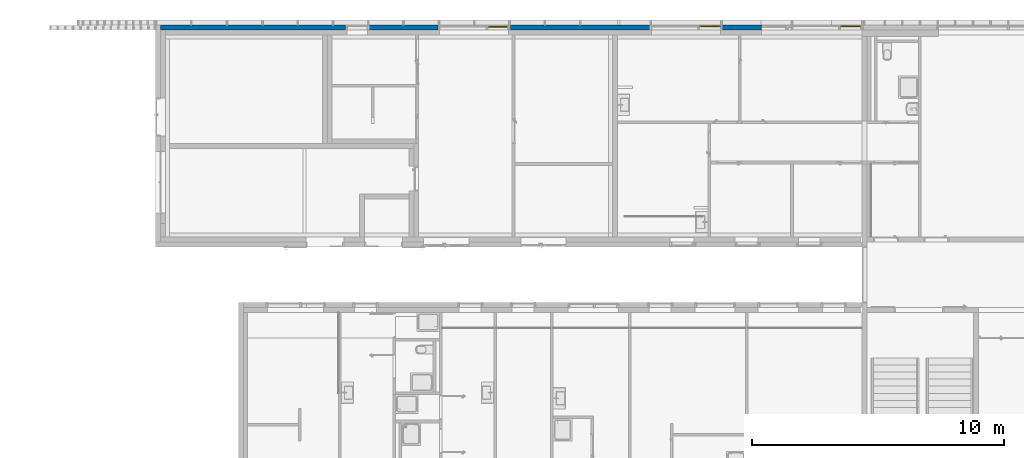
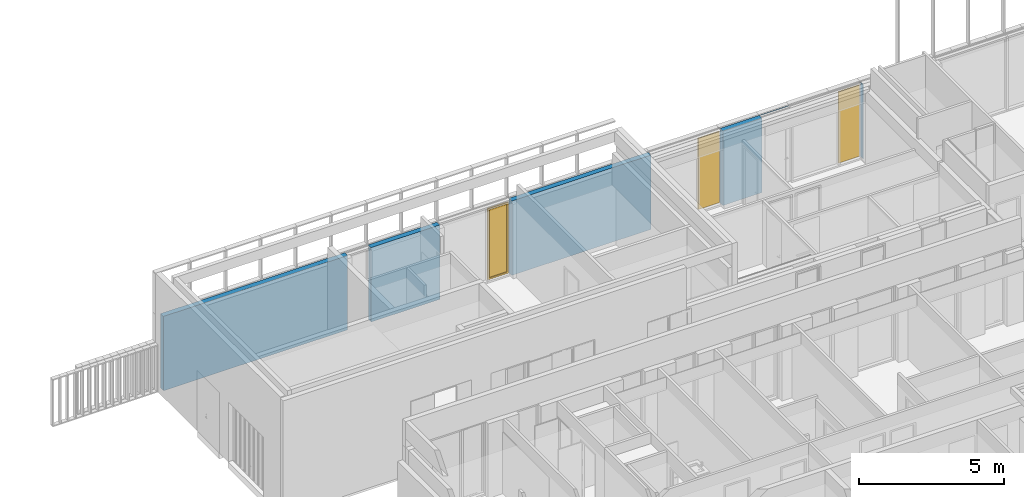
# One storey, part 116 of 240: 3 windows, 1 wall, 8 openings.
"""IFC2X3 building model written with IfcOpenShell, lengths in centimetres."""

from ifc_helpers import new_model, entity, si_unit, converted_unit, derived_unit, direction, frame, frame_2d, origin, place, context, subcontext, project, spatial, rectangle, extrude, faceted_brep, source, transform, mapped, material, material_list, layer, layer_set, layer_usage, type_object, type_shapes, element, fill, save


model = new_model("IFC2X3")

# Units and contexts
model_context = context("Model", 3, precision=0.001, world=origin(), true_north=direction((6.12303176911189e-17, 1.0)))
body_context = subcontext(model_context, "Body", "Model", "MODEL_VIEW")
ifc_project = project(units=[si_unit("LENGTHUNIT", "METRE", prefix="CENTI"), si_unit("AREAUNIT", "SQUARE_METRE"), si_unit("VOLUMEUNIT", "CUBIC_METRE"), converted_unit("PLANEANGLEUNIT", "DEGREE", entity("IfcRatioMeasure", 0.0174532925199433), si_unit("PLANEANGLEUNIT", "RADIAN"), dimensions=[0, 0, 0, 0, 0, 0, 0]), si_unit("MASSUNIT", "GRAM", prefix="KILO"), derived_unit("MASSDENSITYUNIT", [(si_unit("MASSUNIT", "GRAM", prefix="KILO"), 1), (si_unit("LENGTHUNIT", "METRE"), -3)]), si_unit("TIMEUNIT", "SECOND"), si_unit("FREQUENCYUNIT", "HERTZ"), si_unit("THERMODYNAMICTEMPERATUREUNIT", "DEGREE_CELSIUS"), derived_unit("THERMALTRANSMITTANCEUNIT", [(si_unit("MASSUNIT", "GRAM", prefix="KILO"), 1), (si_unit("THERMODYNAMICTEMPERATUREUNIT", "KELVIN"), -1), (si_unit("TIMEUNIT", "SECOND"), -3)]), derived_unit("VOLUMETRICFLOWRATEUNIT", [(si_unit("LENGTHUNIT", "METRE"), 3), (si_unit("TIMEUNIT", "SECOND"), -1)]), si_unit("ELECTRICCURRENTUNIT", "AMPERE"), si_unit("ELECTRICVOLTAGEUNIT", "VOLT"), si_unit("POWERUNIT", "WATT"), si_unit("FORCEUNIT", "NEWTON", prefix="KILO"), si_unit("ILLUMINANCEUNIT", "LUX"), si_unit("LUMINOUSFLUXUNIT", "LUMEN"), si_unit("LUMINOUSINTENSITYUNIT", "CANDELA"), derived_unit("USERDEFINED", [(si_unit("MASSUNIT", "GRAM", prefix="KILO"), -1), (si_unit("LENGTHUNIT", "METRE"), -2), (si_unit("TIMEUNIT", "SECOND"), 3), (si_unit("LUMINOUSFLUXUNIT", "LUMEN"), 1)]), derived_unit("LINEARVELOCITYUNIT", [(si_unit("LENGTHUNIT", "METRE"), 1), (si_unit("TIMEUNIT", "SECOND"), -1)]), si_unit("PRESSUREUNIT", "PASCAL"), derived_unit("USERDEFINED", [(si_unit("LENGTHUNIT", "METRE"), -2), (si_unit("MASSUNIT", "GRAM", prefix="KILO"), 1), (si_unit("TIMEUNIT", "SECOND"), -2)])], contexts=[model_context])

# Site, building, storey
site_placement = place(None, frame((-2781.94577612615, 7442.24238424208, 0.0)))
site = spatial("IfcSite", under=ifc_project, at=site_placement, Name="Default", CompositionType="ELEMENT")
building_placement = place(site_placement, origin())
building = spatial("IfcBuilding", under=site, at=building_placement, CompositionType="ELEMENT")
storey_placement = place(building_placement, origin())
storey = spatial("IfcBuildingStorey", under=building, at=storey_placement, Name="N00 - COO", CompositionType="ELEMENT", Elevation=0.0)

# Wall, openings, windows
ifc_material_1 = material(Name="Aluminium bardage")
ifc_layer_1 = layer(ifc_material_1, 0.5)
ifc_material_2 = material(Name="01 - Lame d'air")
ifc_layer_2 = layer(ifc_material_2, 1.5)
ifc_material_3 = material(Name="00 - Isolant")
ifc_layer_3 = layer(ifc_material_3, 18.0)
ifc_layer_set = layer_set([ifc_layer_1, ifc_layer_2, ifc_layer_3], Name="Mur de base:04 - Parement - ITE 18cm + vide 2cm")
ifc_layer_usage = layer_usage(ifc_layer_set, "AXIS2", "POSITIVE", -10.0)
wall_type = type_object("IfcWallType", Name="Mur de base:04 - Parement - ITE 18cm + vide 2cm", PredefinedType="STANDARD", material=ifc_layer_set)
wall_placement = place(building_placement, frame((-8423.74987766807, 20.0, 0.0), z_axis=(0.0, 0.0, 1.0), x_axis=(-1.0, 0.0, 0.0)))
wall = element("IfcWallStandardCase", 1, at=wall_placement, inside=storey, type_object=wall_type, material=ifc_layer_usage, Name="Mur de base:04 - Parement - ITE 18cm + vide 2cm", ObjectType="Mur de base:04 - Parement - ITE 18cm + vide 2cm", context=body_context, shape_type="SweptSolid", body=[
    extrude(rectangle(XDim=2786.91181917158, YDim=20.0, at=frame_2d((1393.45590958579, 2.66453525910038e-15), x_axis=(-1.0, 0.0))), origin(), (0.0, 0.0, 1.0), 313.000000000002),
])
opening_1_placement = place(wall_placement, origin())
element("IfcOpeningElement", 2, at=opening_1_placement, cuts=wall, Name="Mur de base:04 - Parement - ITE 18cm + vide 2cm", ObjectType="Opening", context=body_context, shape_type="SweptSolid", body=[
    extrude(rectangle(XDim=316.500000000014, YDim=286.500000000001, at=frame_2d((0.0, -8.66862137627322e-13), x_axis=(1.0, 0.0))), frame((703.250000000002, -25.24, 158.250000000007), z_axis=(0.0, 1.0, 0.0), x_axis=(0.0, 0.0, 1.0)), (0.0, 0.0, 1.0), 50.48),
])
opening_2_placement = place(wall_placement, origin())
element("IfcOpeningElement", 3, at=opening_2_placement, cuts=wall, Name="Mur de base:04 - Parement - ITE 18cm + vide 2cm", ObjectType="Opening", context=body_context, shape_type="SweptSolid", body=[
    extrude(rectangle(XDim=319.61455664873, YDim=286.500000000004, at=frame_2d((0.0, 8.66862137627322e-13), x_axis=(1.0, 0.0))), frame((1543.25, -25.24, 159.807278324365), z_axis=(0.0, 1.0, 0.0), x_axis=(0.0, 0.0, 1.0)), (0.0, 0.0, 1.0), 50.48),
])
opening_3_placement = place(wall_placement, origin())
element("IfcOpeningElement", 4, at=opening_3_placement, cuts=wall, Name="Mur de base:04 - Parement - ITE 18cm + vide 2cm", ObjectType="Opening", context=body_context, shape_type="SweptSolid", body=[
    extrude(rectangle(XDim=313.0, YDim=285.749999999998, at=frame_2d((0.0, 8.66862137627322e-13), x_axis=(1.0, 0.0))), frame((143.624999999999, -25.24, 156.5), z_axis=(0.0, 1.0, 0.0), x_axis=(0.0, 0.0, 1.0)), (0.0, 0.0, 1.0), 50.48),
])
opening_4_placement = place(wall_placement, origin())
element("IfcOpeningElement", 5, at=opening_4_placement, cuts=wall, Name="Mur de base:04 - Parement - ITE 18cm + vide 2cm", ObjectType="Opening", context=body_context, shape_type="SweptSolid", body=[
    extrude(rectangle(XDim=313.0, YDim=93.2500000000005, at=frame_2d((0.0, 0.0), x_axis=(0.0, 1.0))), frame((2006.62500003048, -25.24, 156.5), z_axis=(0.0, 1.0, 0.0), x_axis=(-1.0, 0.0, 0.0)), (0.0, 0.0, 1.0), 50.48),
])
opening_5_placement = place(wall_placement, frame((404.267833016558, 51.1999999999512, -15.0), z_axis=(0.0, 0.0, 1.0), x_axis=(-1.0, 0.0, 0.0)))
element("IfcOpeningElement", 6, at=opening_5_placement, cuts=wall, Name="Mur de base:04 - Parement - ITE 18cm + vide 2cm", ObjectType="Opening", context=body_context, shape_type="Brep", body=[
    faceted_brep([(116.698832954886, 61.2999999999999, 326.0), (116.698832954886, 61.2999999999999, 0.0), (2.0, 61.3000000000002, 0.0), (2.0, 61.3000000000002, 326.0), (116.698832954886, 60.0, 326.0), (116.698832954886, 60.0, 0.0), (118.698832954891, 60.0, 0.0), (118.698832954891, 0.0, 0.0), (0.0, 0.0, 0.0), (0.0, 60.0, 0.0), (2.0, 60.0, 0.0), (2.0, 60.0, 326.0), (0.0, 0.0, 328.0), (118.698832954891, 0.0, 328.0), (0.0, 60.0, 328.0), (118.698832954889, 60.0, 328.0)], [[[0, 1, 2, 3]], [[1, 0, 4, 5]], [[2, 1, 5, 6, 7, 8, 9, 10]], [[3, 2, 10, 11]], [[0, 3, 11, 4]], [[12, 8, 7, 13]], [[14, 15, 6, 5, 4, 11, 10, 9]], [[8, 12, 14, 9]], [[13, 7, 6, 15]], [[12, 13, 15, 14]]]),
])
opening_6_placement = place(wall_placement, frame((1490.0, 10.0, 6.5)))
opening_6 = element("IfcOpeningElement", 7, at=opening_6_placement, cuts=wall, Name="Ouvrant vitré:Ouvrant vitré (90cm) RDC:1", ObjectType="Opening", context=body_context, shape_type="SweptSolid", body=[
    extrude(rectangle(XDim=299.5, YDim=83.5000000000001, at=frame_2d((149.75, 41.75), x_axis=(1.0, 0.0))), frame((0.0, 0.0, 0.0), z_axis=(0.0, -1.0, 0.0), x_axis=(0.0, 0.0, 1.0)), (0.0, 0.0, 1.0), 20.0),
])
opening_7_placement = place(wall_placement, frame((650.0, 10.0, 6.5)))
opening_7 = element("IfcOpeningElement", 8, at=opening_7_placement, cuts=wall, Name="Ouvrant vitré:Ouvrant vitré (90cm) RDC:1", ObjectType="Opening", context=body_context, shape_type="SweptSolid", body=[
    extrude(rectangle(XDim=299.5, YDim=83.5000000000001, at=frame_2d((149.75, 41.75), x_axis=(1.0, 0.0))), frame((0.0, 0.0, 0.0), z_axis=(0.0, -1.0, 0.0), x_axis=(0.0, 0.0, 1.0)), (0.0, 0.0, 1.0), 20.0),
])
opening_8_placement = place(wall_placement, frame((91.0, 10.0, 6.5)))
opening_8 = element("IfcOpeningElement", 9, at=opening_8_placement, cuts=wall, Name="Ouvrant vitré:Ouvrant vitré (90cm) RDC:1", ObjectType="Opening", context=body_context, shape_type="SweptSolid", body=[
    extrude(rectangle(XDim=299.5, YDim=83.5000000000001, at=frame_2d((149.75, 41.75), x_axis=(1.0, 0.0))), frame((0.0, 0.0, 0.0), z_axis=(0.0, -1.0, 0.0), x_axis=(0.0, 0.0, 1.0)), (0.0, 0.0, 1.0), 20.0),
])
ifc_material_4 = material(Name="Verre")
ifc_material_5 = material(Name="Aluminium")
ifc_material_list_1 = material_list([ifc_material_4, ifc_material_5])
ifc_material_list_2 = material_list([ifc_material_4, ifc_material_5])
window_style_1 = type_object("IfcWindowStyle", Name="Ouvrant vitré (90cm) RDC", ConstructionType="NOTDEFINED", OperationType="NOTDEFINED", ParameterTakesPrecedence=False, Sizeable=False, material=ifc_material_list_2)
shared_shape_1 = source(origin(), body_context, "Body", "Brep", [
    faceted_brep([(6.50000000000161, 15.2499999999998, 293.0), (77.0, 15.2500000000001, 293.0), (77.0, 15.2500000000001, 6.49999999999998), (6.50000000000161, 15.2499999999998, 6.49999999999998), (6.50000000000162, 13.2499999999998, 6.49999999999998), (6.50000000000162, 13.2499999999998, 293.0), (77.0, 13.2500000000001, 6.49999999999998), (77.0, 13.2500000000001, 293.0)], [[[0, 1, 2, 3]], [[3, 4, 5, 0]], [[2, 6, 4, 3]], [[1, 7, 6, 2]], [[5, 4, 6, 7]], [[0, 5, 7, 1]]]),
    faceted_brep([(6.50000000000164, 16.5395884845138, 293.0), (6.50000000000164, 16.5395884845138, 6.50000000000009), (77.0, 16.539588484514, 6.50000000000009), (77.0, 16.539588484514, 293.0), (3.50000000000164, 16.5395884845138, 296.0), (80.0, 16.5395884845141, 296.0), (80.0, 16.5395884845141, 3.50000000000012), (3.50000000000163, 16.5395884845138, 3.50000000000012), (3.50000000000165, 13.039588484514, 3.50000000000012), (3.50000000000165, 13.039588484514, 296.0), (80.0, 13.0395884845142, 3.50000000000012), (80.0, 13.0395884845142, 296.0), (77.0, 13.0395884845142, 6.50000000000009), (77.0, 13.0395884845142, 293.0), (6.50000000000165, 13.039588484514, 6.50000000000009), (6.50000000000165, 13.039588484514, 293.0)], [[[0, 1, 2, 3], [4, 5, 6, 7]], [[7, 8, 9, 4]], [[6, 10, 8, 7]], [[5, 11, 10, 6]], [[2, 12, 13, 3]], [[1, 14, 12, 2]], [[0, 15, 14, 1]], [[9, 8, 10, 11], [15, 13, 12, 14]], [[4, 9, 11, 5]], [[3, 13, 15, 0]]], outer=[[False, True], [True], [True], [True], [True], [True], [True], [True, False], [True], [True]]),
    faceted_brep([(5.0, 16.5395884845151, 294.5), (5.0, 16.5395884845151, 5.0), (5.0, 18.0395884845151, 5.0), (5.0, 18.0395884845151, 294.5), (78.5000000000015, 18.0395884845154, 5.0), (78.5000000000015, 18.0395884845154, 294.5), (0.0, 18.0395884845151, 0.0), (0.0, 18.0395884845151, 299.5), (83.5000000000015, 18.0395884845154, 299.5), (83.5000000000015, 18.0395884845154, 0.0), (78.5000000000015, 16.5395884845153, 5.0), (78.5000000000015, 16.5395884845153, 294.5), (3.50000000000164, 16.5395884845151, 296.0), (3.50000000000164, 16.5395884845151, 3.50000000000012), (80.0, 16.5395884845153, 3.50000000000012), (80.0, 16.5395884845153, 296.0), (3.50000000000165, 13.0395884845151, 296.0), (3.50000000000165, 13.0395884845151, 3.50000000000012), (80.0, 13.0395884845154, 3.50000000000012), (80.0, 13.0395884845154, 296.0), (0.0, 13.0395884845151, 299.5), (0.0, 13.0395884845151, 0.0), (83.5000000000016, 13.0395884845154, 0.0), (83.5000000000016, 13.0395884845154, 299.5)], [[[0, 1, 2, 3]], [[3, 2, 4, 5], [6, 7, 8, 9]], [[1, 10, 4, 2]], [[1, 0, 11, 10], [12, 13, 14, 15]], [[16, 17, 13, 12]], [[17, 18, 14, 13]], [[17, 16, 19, 18], [20, 21, 22, 23]], [[7, 6, 21, 20]], [[6, 9, 22, 21]], [[10, 11, 5, 4]], [[18, 19, 15, 14]], [[9, 8, 23, 22]], [[11, 0, 3, 5]], [[19, 16, 12, 15]], [[8, 7, 20, 23]]], outer=[[True], [False, True], [True], [False, True], [True], [True], [False, True], [True], [True], [True], [True], [True], [True], [True], [True]]),
])
type_shapes(window_style_1, [shared_shape_1])
window_1_placement = place(opening_8_placement, frame((0.0, 0.0, 0.0), z_axis=(0.0, 0.0, 1.0), x_axis=(-1.0, 0.0, 0.0)))
window_1 = element("IfcWindow", 10, at=window_1_placement, inside=storey, type_object=window_style_1, material=ifc_material_list_1, Name="Ouvrant vitré:Ouvrant vitré (90cm) RDC", ObjectType="Ouvrant vitré:Ouvrant vitré (90cm) RDC", OverallHeight=299.5, OverallWidth=83.5000000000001, context=body_context, shape_type="MappedRepresentation", body=[
    mapped(shared_shape_1, transform((0.0, 0.0, 0.0), scale=1.0)),
])
fill(opening_8, window_1)
ifc_material_list_3 = material_list([ifc_material_4, ifc_material_5])
window_2_placement = place(opening_7_placement, frame((0.0, 0.0, 0.0), z_axis=(0.0, 0.0, 1.0), x_axis=(-1.0, 0.0, 0.0)))
window_2 = element("IfcWindow", 11, at=window_2_placement, inside=storey, type_object=window_style_1, material=ifc_material_list_3, Name="Ouvrant vitré:Ouvrant vitré (90cm) RDC", ObjectType="Ouvrant vitré:Ouvrant vitré (90cm) RDC", OverallHeight=299.5, OverallWidth=83.5000000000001, context=body_context, shape_type="MappedRepresentation", body=[
    mapped(shared_shape_1, transform((0.0, 0.0, 0.0), scale=1.0)),
])
fill(opening_7, window_2)
ifc_material_list_4 = material_list([ifc_material_4, ifc_material_5])
ifc_material_list_5 = material_list([ifc_material_4, ifc_material_5])
window_style_2 = type_object("IfcWindowStyle", Name="Ouvrant vitré (90cm) RDC", ConstructionType="NOTDEFINED", OperationType="NOTDEFINED", ParameterTakesPrecedence=False, Sizeable=False, material=ifc_material_list_5)
shared_shape_2 = source(origin(), body_context, "Body", "Brep", [
    faceted_brep([(77.0, 15.2499999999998, 293.0), (77.0, 15.2499999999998, 6.49999999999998), (6.50000000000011, 15.2500000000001, 6.49999999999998), (6.50000000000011, 15.2500000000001, 293.0), (77.0, 13.2499999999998, 293.0), (77.0, 13.2499999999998, 6.49999999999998), (6.50000000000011, 13.2500000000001, 6.49999999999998), (6.50000000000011, 13.2500000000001, 293.0)], [[[0, 1, 2, 3]], [[1, 0, 4, 5]], [[2, 1, 5, 6]], [[3, 2, 6, 7]], [[4, 7, 6, 5]], [[0, 3, 7, 4]]]),
    faceted_brep([(80.0, 13.4999999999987, 296.0), (80.0, 13.4999999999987, 3.50000000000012), (3.50000000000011, 13.499999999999, 3.50000000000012), (3.50000000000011, 13.499999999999, 296.0), (77.0, 13.4999999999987, 293.0), (6.50000000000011, 13.499999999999, 293.0), (6.50000000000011, 13.499999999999, 6.50000000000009), (77.0, 13.4999999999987, 6.50000000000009), (80.0, 10.0, 296.0), (80.0, 10.0, 3.50000000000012), (3.5000000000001, 10.0, 3.50000000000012), (3.5000000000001, 10.0, 296.0), (6.50000000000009, 10.0, 293.0), (6.50000000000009, 10.0, 6.50000000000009), (77.0, 10.0, 6.50000000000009), (77.0, 10.0, 293.0)], [[[0, 1, 2, 3], [4, 5, 6, 7]], [[1, 0, 8, 9]], [[2, 1, 9, 10]], [[3, 2, 10, 11]], [[6, 5, 12, 13]], [[7, 6, 13, 14]], [[4, 7, 14, 15]], [[15, 14, 13, 12], [8, 11, 10, 9]], [[0, 3, 11, 8]], [[5, 4, 15, 12]]], outer=[[True, False], [True], [True], [True], [True], [True], [True], [False, True], [True], [True]]),
    faceted_brep([(78.5, 13.5, 294.5), (78.5, 15.0, 294.5), (78.5, 15.0, 5.0), (78.4999999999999, 13.5, 5.0), (83.5, 15.0, 0.0), (0.0, 15.0, 0.0), (0.0, 15.0, 299.5), (83.5, 15.0, 299.5), (5.0, 15.0, 294.5), (5.0, 15.0, 5.0), (5.0, 13.5000000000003, 5.0), (5.0, 13.5000000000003, 294.5), (80.0, 13.5, 296.0), (3.5000000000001, 13.5000000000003, 296.0), (3.5000000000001, 13.5000000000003, 3.50000000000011), (80.0, 13.5, 3.50000000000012), (80.0, 10.0, 296.0), (80.0, 10.0, 3.50000000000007), (3.50000000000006, 10.0, 3.50000000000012), (3.50000000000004, 10.0, 296.0), (83.5, 10.0, 299.5), (0.0, 10.0, 299.5), (0.0, 10.0, 0.0), (83.5, 10.0, 0.0)], [[[0, 1, 2, 3]], [[4, 5, 6, 7], [1, 8, 9, 2]], [[3, 2, 9, 10]], [[3, 10, 11, 0], [12, 13, 14, 15]], [[16, 12, 15, 17]], [[17, 15, 14, 18]], [[17, 18, 19, 16], [20, 21, 22, 23]], [[7, 20, 23, 4]], [[4, 23, 22, 5]], [[10, 9, 8, 11]], [[18, 14, 13, 19]], [[5, 22, 21, 6]], [[11, 8, 1, 0]], [[19, 13, 12, 16]], [[6, 21, 20, 7]]], outer=[[True], [True, False], [True], [False, True], [True], [True], [False, True], [True], [True], [True], [True], [True], [True], [True], [True]]),
])
type_shapes(window_style_2, [shared_shape_2])
window_3_placement = place(opening_6_placement, frame((0.0, 0.0, 0.0), z_axis=(0.0, 0.0, 1.0), x_axis=(-1.0, 0.0, 0.0)))
window_3 = element("IfcWindow", 12, at=window_3_placement, inside=storey, type_object=window_style_2, material=ifc_material_list_4, Name="Ouvrant vitré:Ouvrant vitré (90cm) RDC", ObjectType="Ouvrant vitré:Ouvrant vitré (90cm) RDC", OverallHeight=299.5, OverallWidth=83.5000000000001, context=body_context, shape_type="MappedRepresentation", body=[
    mapped(shared_shape_2, transform((0.0, 0.0, 0.0), scale=1.0)),
])
fill(opening_6, window_3)

save(model, "model.ifc")
